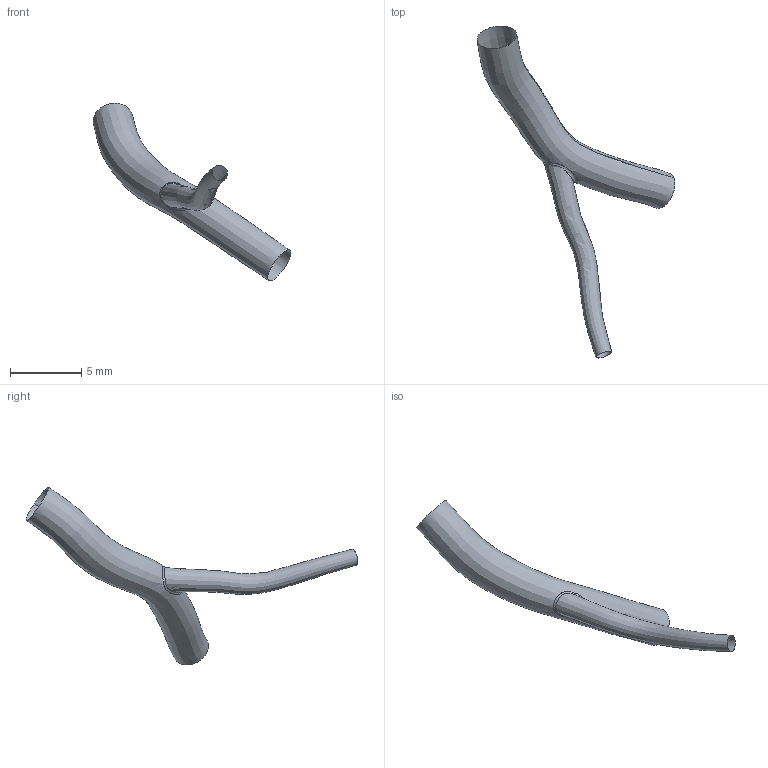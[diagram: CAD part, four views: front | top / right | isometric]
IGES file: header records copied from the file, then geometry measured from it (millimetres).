
Global section: file name: C:\Documents and Settings\Administrator\Desktop\FDA-Pig\Domestic LCA\Pig_000138\diag.es.igs; native system: Rhinoceros ( May 19 2006 ); preprocessor: Trout Lake IGES 012 May 19 2006; date: 111205.184616; units: centimetre
Bounding box: 13.83 x 23.22 x 12.44 mm (x, y, z)
Surface area: 229.2 mm2 (no closed solid volume)
Topology: 0 solids, 0 shells, 3 faces, 39 edges, 36 vertices
Faces by surface type: bspline 3
